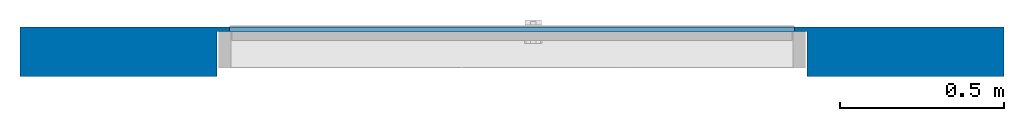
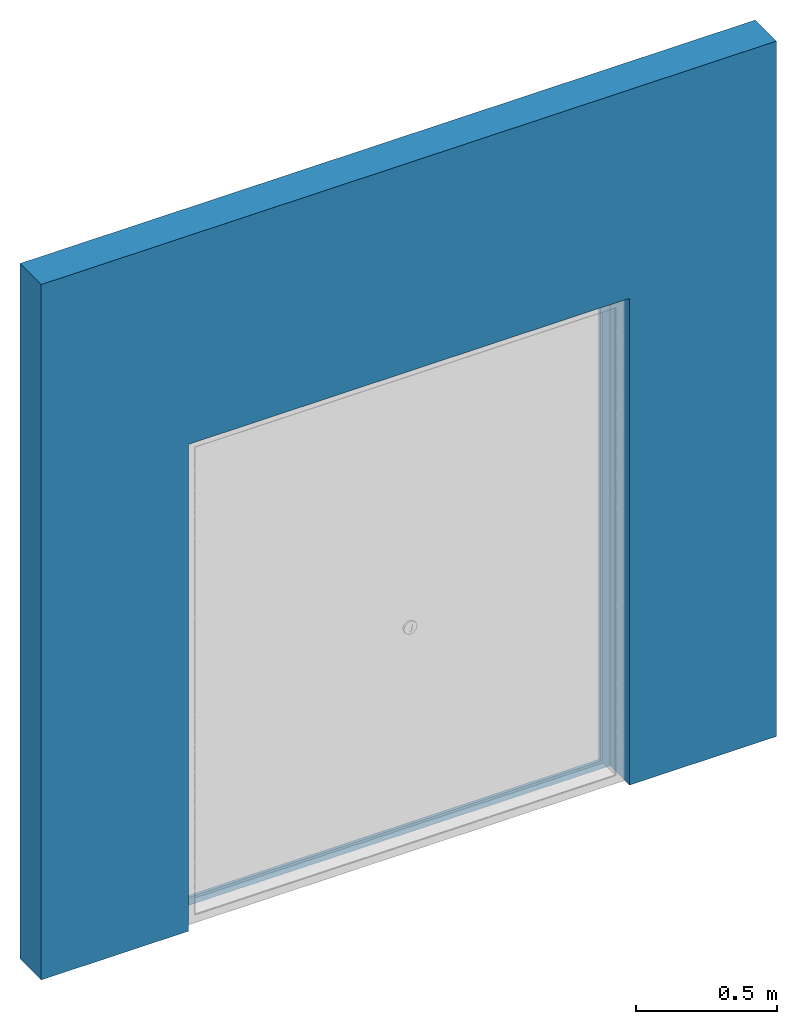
# One storey, incomplete: 1 wall, 1 opening.
"""IFC2X3 building model written with IfcOpenShell, lengths in millimetres."""

from ifc_helpers import new_model, entity, si_unit, converted_unit, derived_unit, direction, frame, frame_2d, origin, place, context, subcontext, project, spatial, rectangle, extrude, faceted_brep, material, layer, layer_set, layer_usage, type_object, element, save


model = new_model("IFC2X3")

# Units and contexts
model_context = context("Model", 3, precision=0.01, world=origin(), true_north=direction((6.12303176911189e-17, 1.0)))
body_context = subcontext(model_context, "Body", "Model", "MODEL_VIEW")
ifc_project = project(units=[si_unit("LENGTHUNIT", "METRE", prefix="MILLI"), si_unit("AREAUNIT", "SQUARE_METRE"), si_unit("VOLUMEUNIT", "CUBIC_METRE"), converted_unit("PLANEANGLEUNIT", "DEGREE", entity("IfcRatioMeasure", 0.0174532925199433), si_unit("PLANEANGLEUNIT", "RADIAN"), dimensions=[0, 0, 0, 0, 0, 0, 0]), si_unit("MASSUNIT", "GRAM", prefix="KILO"), si_unit("TIMEUNIT", "SECOND"), si_unit("FREQUENCYUNIT", "HERTZ"), si_unit("THERMODYNAMICTEMPERATUREUNIT", "DEGREE_CELSIUS"), derived_unit("THERMALTRANSMITTANCEUNIT", [(si_unit("MASSUNIT", "GRAM", prefix="KILO"), 1), (si_unit("THERMODYNAMICTEMPERATUREUNIT", "KELVIN"), -1), (si_unit("TIMEUNIT", "SECOND"), -3)]), derived_unit("VOLUMETRICFLOWRATEUNIT", [(si_unit("LENGTHUNIT", "METRE"), 3), (si_unit("TIMEUNIT", "SECOND"), -1)]), si_unit("ELECTRICCURRENTUNIT", "AMPERE"), si_unit("ELECTRICVOLTAGEUNIT", "VOLT"), si_unit("POWERUNIT", "WATT"), si_unit("FORCEUNIT", "NEWTON", prefix="KILO"), si_unit("ILLUMINANCEUNIT", "LUX"), si_unit("LUMINOUSFLUXUNIT", "LUMEN"), si_unit("LUMINOUSINTENSITYUNIT", "CANDELA"), si_unit("PRESSUREUNIT", "PASCAL")], contexts=[model_context])

# Site, building, storey
site_placement = place(None, origin())
site = spatial("IfcSite", under=ifc_project, at=site_placement, Name="Default", CompositionType="ELEMENT")
building_placement = place(site_placement, origin())
building = spatial("IfcBuilding", under=site, at=building_placement, CompositionType="ELEMENT")
storey_placement = place(building_placement, origin())
storey = spatial("IfcBuildingStorey", under=building, at=storey_placement, Name="Level 1", CompositionType="ELEMENT", Elevation=0.0)

# Wall, opening
ifc_material = material(Name="nbl_Concept")
ifc_layer = layer(ifc_material, 150.0)
ifc_layer_set = layer_set([ifc_layer], Name="Basic Wall:NBS_Int_Concept")
ifc_layer_usage = layer_usage(ifc_layer_set, "AXIS2", "POSITIVE", -75.0)
wall_type = type_object("IfcWallType", Name="Basic Wall:NBS_Int_Concept", PredefinedType="STANDARD", material=ifc_layer_set)
wall_placement = place(storey_placement, frame((-1500.0, 0.0, 0.0)))
wall = element("IfcWallStandardCase", 1, at=wall_placement, inside=storey, type_object=wall_type, material=ifc_layer_usage, Name="Basic Wall:NBS_Int_Concept:2301", ObjectType="Basic Wall:NBS_Int_Concept:2340", context=body_context, shape_type="SweptSolid", body=[
    extrude(rectangle(XDim=3000.0, YDim=150.0, at=frame_2d((1500.0, 0.0), x_axis=(-1.0, 0.0))), origin(), (0.0, 0.0, 1.0), 3000.0),
])
opening_placement = place(wall_placement, frame((1500.0, 0.0, 0.0)))
element("IfcOpeningElement", 2, at=opening_placement, cuts=wall, Name="Basic Wall:NBS_Int_Concept:2301", ObjectType="Opening", context=body_context, shape_type="Brep", body=[
    faceted_brep([(860.995380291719, 80.0, 2066.0), (860.995380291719, 80.0, 34.0), (-860.996616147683, 80.0, 34.0), (-860.996616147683, 80.0, 2066.0), (-860.996616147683, 62.0, 2066.0), (860.995380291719, 62.0, 2066.0), (-860.996616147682, 62.0, 34.0), (860.995380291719, 62.0, 34.0), (900.0, 62.0, 2100.0), (900.0, 62.0, 0.0), (-900.0, 62.0, 0.0), (-900.0, 62.0, 2100.0), (900.0, -75.0, 2100.0), (-900.0, -75.0, 2100.0), (-900.0, -75.0, 0.0), (900.0, -75.0, 0.0)], [[[0, 1, 2, 3]], [[3, 4, 5, 0]], [[2, 6, 4, 3]], [[1, 7, 6, 2]], [[0, 5, 7, 1]], [[8, 9, 10, 11], [4, 6, 7, 5]], [[12, 13, 14, 15]], [[11, 13, 12, 8]], [[10, 14, 13, 11]], [[9, 15, 14, 10]], [[8, 12, 15, 9]]]),
])

save(model, "model.ifc")
